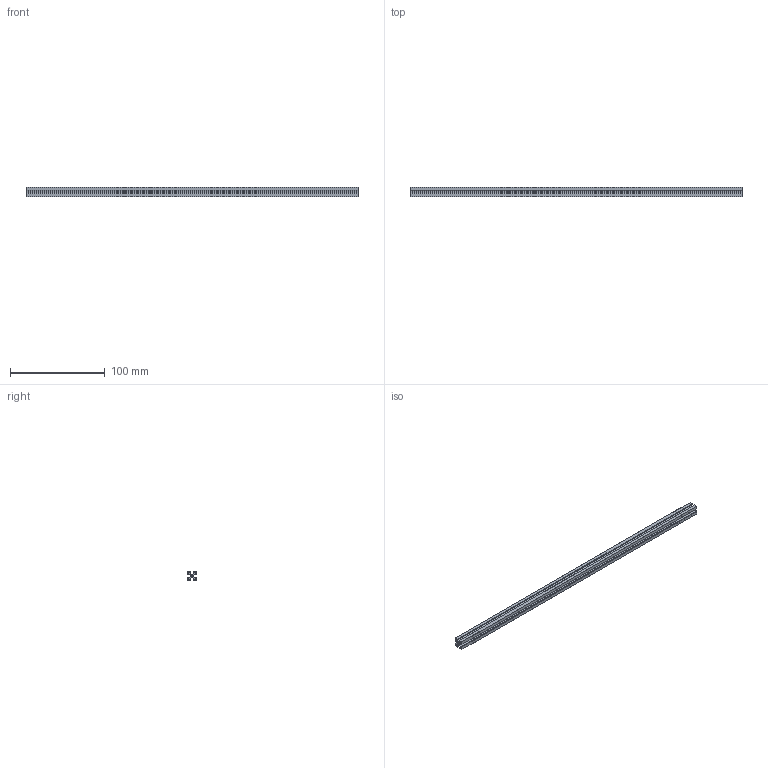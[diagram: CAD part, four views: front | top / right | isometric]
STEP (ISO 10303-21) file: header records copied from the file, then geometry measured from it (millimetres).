
FILE_DESCRIPTION(/* description */ (''),/* implementation_level */ '2;1');
FILE_NAME(/* name */ 'M:/DATEN_PRIVAT/Projekte/0000-00-00_GrabCAD/2021-02-21_MakerBeam Profile 10x10x350/MakerBeam Profile 10x10x350.step',/* time_stamp */ '2021-02-21T19:39:00+01:00',/* author */ (''),/* organization */ (''),/* preprocessor_version */ 'ST-DEVELOPER v18.1',/* originating_system */ 'Autodesk Translation Framework v9.7.1.1290',/* authorisation */ '');
FILE_SCHEMA (('AUTOMOTIVE_DESIGN { 1 0 10303 214 3 1 1 }'));
Length unit declared in the file: millimetre
Products named in the file (1): MakerBeam Profile 10x10x350
Bounding box: 350 x 10 x 10 mm (x, y, z)
Volume: 16506.3 mm3; surface area: 31154.3 mm2
Topology: 1 solids, 1 shells, 115 faces, 339 edges, 226 vertices
Faces by surface type: cylinder 71, plane 40, bspline 4
Full cylindrical faces by diameter (mm): 2.529 x10, 3.086 x4
Entity records: 6763 total; most frequent: CARTESIAN_POINT 3751, ORIENTED_EDGE 678, DIRECTION 533, EDGE_CURVE 339, VERTEX_POINT 226, AXIS2_PLACEMENT_3D 178, LINE 177, VECTOR 177
